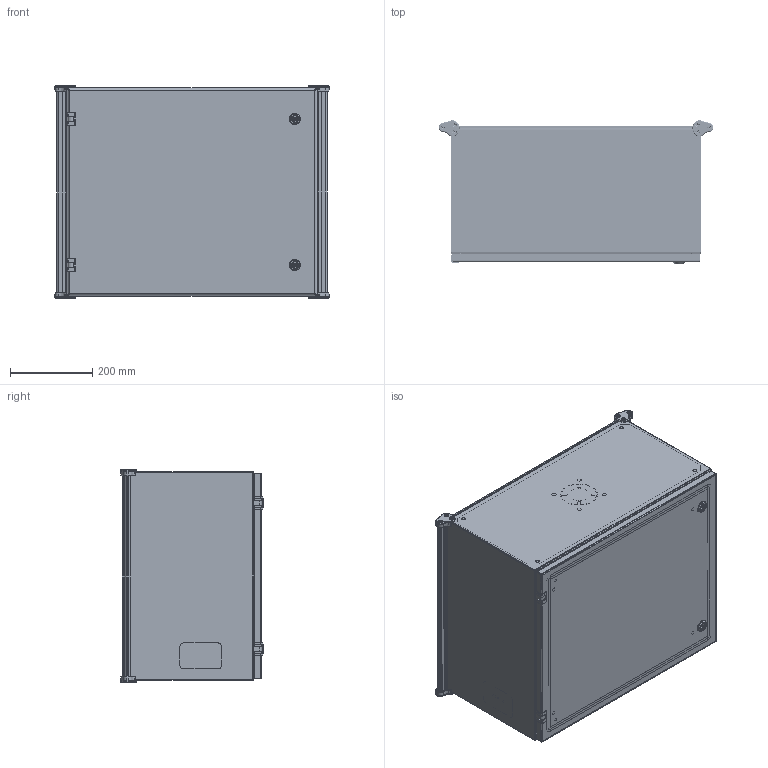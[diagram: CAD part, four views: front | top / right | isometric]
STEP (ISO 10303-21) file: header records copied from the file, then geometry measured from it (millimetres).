
FILE_DESCRIPTION(/* description */ ('Unknown'),/* implementation_level */ '2;1');
FILE_NAME(/* name */ 'ACE202412LG',/* time_stamp */ '2023-10-19T11:42:50-04:00',/* author */ ('Unknown'),/* organization */ ('Unknown'),/* preprocessor_version */ 'ST-DEVELOPER v18.104',/* originating_system */ 'Solid Edge',/* authorisation */ 'Unknown');
FILE_SCHEMA (('AUTOMOTIVE_DESIGN {1 0 10303 214 3 1 1}'));
Length unit declared in the file: millimetre
Products named in the file (45): ACE202412LG; COM71501-10; STD26130; NTS17050; BUL10020; COM71505-9; PNT21002; NTS16535; GSK88487_oa_0; GSK88487_oa_1; GSK88487_oa_2; GSK88487_oa_3; COM71504-5; STD26260; AKT95000; HNG14569; PIN17639; WAM30017; SCC19015; CAP88489; CAP88490; COM71506-3; SCS88495; COM71502-1; WAM87960; KIT90256; LAB30005; NTS165305; BUL88556; COM71503-5; STD26092; COM70219_oa_4; LOK10000; LOK10000_CAM; LOK10000_SCREW; LOK10000_NUT; KIT90780; scs18968; COM71502-2; QLB20179
Assembly tree (112 placements, depth 3):
  ACE202412LG
    COM71501-10
    STD26130  x8
    NTS17050  x18
    BUL10020
    COM71505-9
      COM71505-9
      PNT21002
    NTS16535  x4
    GSK88487_oa_0
    GSK88487_oa_1
    GSK88487_oa_2
    GSK88487_oa_3
    COM71504-5
      COM71504-5
      STD26260  x14
    AKT95000  x2
      HNG14569
      PIN17639
      WAM30017
      SCC19015
    CAP88489  x2
    CAP88490  x2
    COM71506-3  x2
      COM71506-3
      PNT21002
    SCS88495  x12
    COM71502-1
    WAM87960  x4
    KIT90256
      LAB30005
      NTS165305
      NTS16535
    BUL88556
    COM71503-5
      COM71503-5
      STD26130  x2
      STD26092  x4
      COM70219_oa_4
      PNT21002
    LOK10000  x2
      LOK10000
      LOK10000_CAM
      LOK10000_SCREW
      LOK10000_NUT
    KIT90780
      scs18968
    COM71502-2
    PNT21002
    QLB20179
Bounding box: 667.82 x 348.44 x 518.03 mm (x, y, z)
Volume: 4314702 mm3; surface area: 3741315.8 mm2
Topology: 105 solids, 106 shells, 2630 faces, 6805 edges, 4406 vertices
Faces by surface type: plane 1221, cylinder 871, bspline 222, cone 202, torus 98, sphere 16
Full cylindrical faces by diameter (mm): 3.967 x18, 4.039 x4, 4.064 x4, 4.699 x1, 4.826 x28, 4.976 x5, 5.004 x2, 5.2 x12, 5.74 x2, 5.893 x4, 5.944 x18, 5.994 x6, 6.096 x4, 6.35 x17, 6.502 x14, 6.985 x2, 8.382 x4, 9.525 x4, 9.779 x1, 10.319 x4, 10.5 x12, 11.176 x4, 13.335 x2, 15.875 x4, 19.939 x4, 27.94 x2, 50.8 x1
Entity records: 43043 total; most frequent: CARTESIAN_POINT 13042, ORIENTED_EDGE 6028, DIRECTION 5410, EDGE_CURVE 3014, VERTEX_POINT 1988, AXIS2_PLACEMENT_3D 1855, LINE 1700, VECTOR 1700
